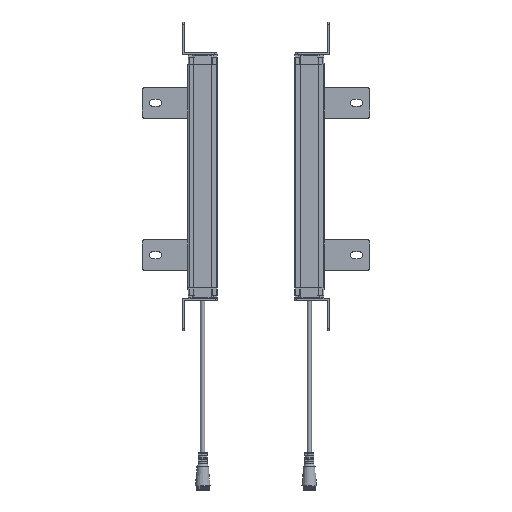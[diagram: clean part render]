
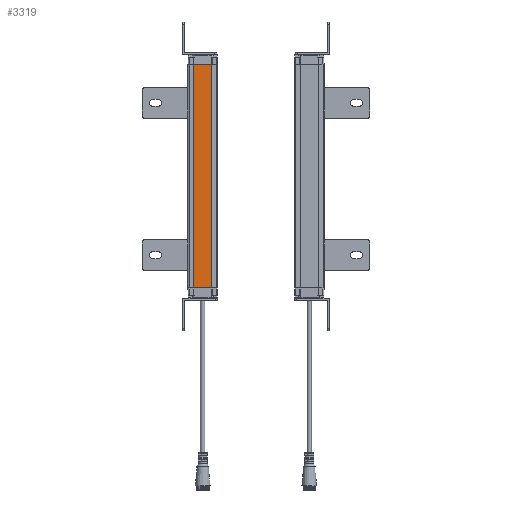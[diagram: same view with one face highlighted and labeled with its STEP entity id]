
A CAD part, left-side view. The second image highlights one B-rep face of the part: STEP entity #3319.
In plain terms, the highlighted planar face has unit normal (-1, 0, 0).
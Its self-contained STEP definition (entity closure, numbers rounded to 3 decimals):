
#1795=FACE_OUTER_BOUND('',#5986,.T.);
#3319=ADVANCED_FACE('',(#1795),#4749,.T.);
#4749=PLANE('',#29857);
#5986=EDGE_LOOP('',(#9184,#9185,#9186,#9187));
#9184=ORIENTED_EDGE('',*,*,#19383,.F.);
#9185=ORIENTED_EDGE('',*,*,#19072,.T.);
#9186=ORIENTED_EDGE('',*,*,#19385,.T.);
#9187=ORIENTED_EDGE('',*,*,#19386,.F.);
#16145=VERTEX_POINT('',#43699);
#16146=VERTEX_POINT('',#43701);
#16357=VERTEX_POINT('',#44323);
#16358=VERTEX_POINT('',#44327);
#19072=EDGE_CURVE('',#16146,#16145,#24663,.T.);
#19383=EDGE_CURVE('',#16146,#16357,#24884,.T.);
#19385=EDGE_CURVE('',#16145,#16358,#24886,.T.);
#19386=EDGE_CURVE('',#16357,#16358,#24887,.T.);
#24663=LINE('',#43700,#27142);
#24884=LINE('',#44322,#27363);
#24886=LINE('',#44326,#27365);
#24887=LINE('',#44328,#27366);
#27142=VECTOR('',#33404,1.);
#27363=VECTOR('',#34005,1.);
#27365=VECTOR('',#34009,1.);
#27366=VECTOR('',#34010,1.);
#29857=AXIS2_PLACEMENT_3D('',#44329,#34011,#34012);
#33404=DIRECTION('',(0.,1.,0.));
#34005=DIRECTION('',(0.,0.,-1.));
#34009=DIRECTION('',(0.,0.,-1.));
#34010=DIRECTION('',(0.,1.,0.));
#34011=DIRECTION('',(-1.,0.,0.));
#34012=DIRECTION('',(0.,1.,0.));
#43699=CARTESIAN_POINT('',(50.4,-5.5,178.059));
#43700=CARTESIAN_POINT('',(50.4,-5.5,178.059));
#43701=CARTESIAN_POINT('',(50.4,-23.5,178.059));
#44322=CARTESIAN_POINT('',(50.4,-23.5,103.059));
#44323=CARTESIAN_POINT('',(50.4,-23.5,-41.941));
#44326=CARTESIAN_POINT('',(50.4,-5.5,103.059));
#44327=CARTESIAN_POINT('',(50.4,-5.5,-41.941));
#44328=CARTESIAN_POINT('',(50.4,-23.5,-41.941));
#44329=CARTESIAN_POINT('',(50.4,-5.5,-61.941));
